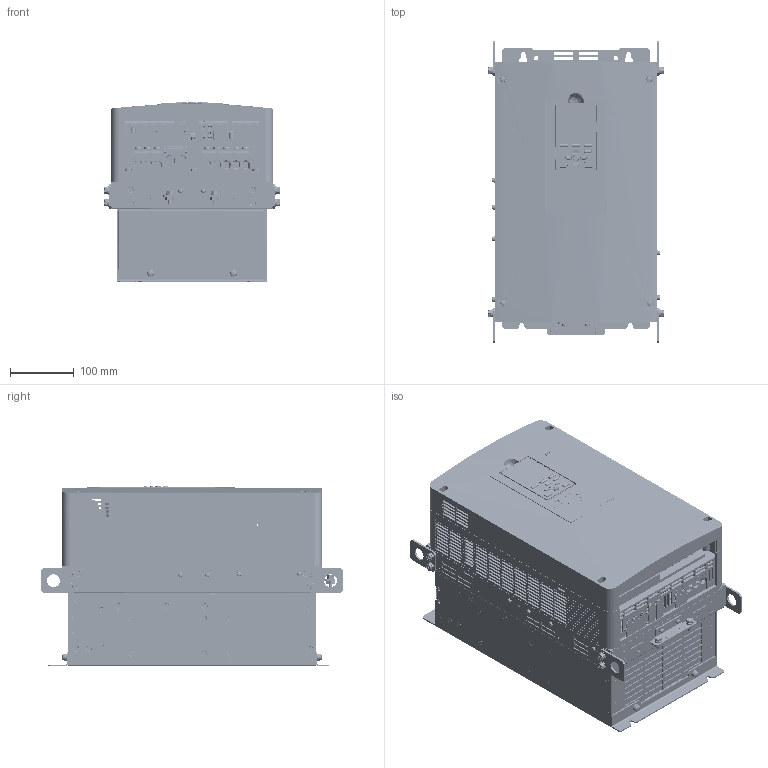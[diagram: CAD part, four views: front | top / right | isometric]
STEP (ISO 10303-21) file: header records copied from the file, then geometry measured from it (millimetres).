
FILE_DESCRIPTION((''),'2;1');
FILE_NAME('A6_CR7_4037_ASM','2021-01-14T',('jam'),('YASKAWA ELECTRIC CORCORATION'),'PRO/ENGINEER BY PARAMETRIC TECHNOLOGY CORPORATION, 2017170','PRO/ENGINEER BY PARAMETRIC TECHNOLOGY CORPORATION, 2017170','');
FILE_SCHEMA(('AUTOMOTIVE_DESIGN { 1 0 10303 214 1 1 1 1 }'));
Products named in the file (26): LAY-GA70_4089_1; MANIFOLD_SOLID_BREP_261992; MANIFOLD_SOLID_BREP_262350; MANIFOLD_SOLID_BREP_262708; MANIFOLD_SOLID_BREP_263066; MANIFOLD_SOLID_BREP_263424; GA70_4089_BODY_1_ASM; GA70_4089_MTG_PLATE_BOTTOM_1; GEM_OPEN_SCREW_M6X14_1; GA70_4089_MTG_PLATE_TOP_1; GA70_4089_FAN_1; GA70_4089_FAN_COVER_1; GEM_OPEN_SCREW_M4X25_1; 400-098-514-01A-0_200214_3_1; SMKDSN1P5_12_4_1; MKDSN1P5_11_4_1; MK3DSN1P5_3-5P08_5_1; ETC750020_STEP_ASM; GA70_ALL_LED_1; GA70_ALL_CONNECTOR_1; GA70_4089_IP20_COVER_1; GA70_4089_FP_1; GA70_ALL_USB_COVER_1; GA70_ALL_LCD_OPERATOR_1; GA70_4089_SCREW_GND_1; A6_CR7_4037_ASM
Assembly tree (32 placements, depth 3):
  A6_CR7_4037_ASM
    LAY-GA70_4089_1
    GA70_4089_BODY_1_ASM
      MANIFOLD_SOLID_BREP_261992
      MANIFOLD_SOLID_BREP_262350
      MANIFOLD_SOLID_BREP_262708
      MANIFOLD_SOLID_BREP_263066
      MANIFOLD_SOLID_BREP_263424
    GA70_4089_MTG_PLATE_BOTTOM_1
    GEM_OPEN_SCREW_M6X14_1  x4
    GA70_4089_MTG_PLATE_TOP_1
    GA70_4089_FAN_1  x2
    GA70_4089_FAN_COVER_1
    GEM_OPEN_SCREW_M4X25_1  x2
    ETC750020_STEP_ASM
      400-098-514-01A-0_200214_3_1
      SMKDSN1P5_12_4_1  x2
      MKDSN1P5_11_4_1
      MK3DSN1P5_3-5P08_5_1
    GA70_ALL_LED_1
    GA70_ALL_CONNECTOR_1
    GA70_4089_IP20_COVER_1
    GA70_4089_FP_1
    GA70_ALL_USB_COVER_1
    GA70_ALL_LCD_OPERATOR_1
    GA70_4089_SCREW_GND_1  x2
Bounding box: 274.4 x 474 x 282.5 mm (x, y, z)
Volume: 21503020.7 mm3; surface area: 1472229 mm2
Topology: 29 solids, 59 shells, 14450 faces, 38562 edges, 24991 vertices
Faces by surface type: plane 10472, cylinder 2823, cone 625, torus 271, bspline 123, sphere 76, extrusion 60
Entity records: 437574 total; most frequent: CARTESIAN_POINT 93360, ORIENTED_EDGE 71184, DIRECTION 66229, EDGE_CURVE 35592, VECTOR 27913, LINE 27877, VERTEX_POINT 23115, AXIS2_PLACEMENT_3D 19158
